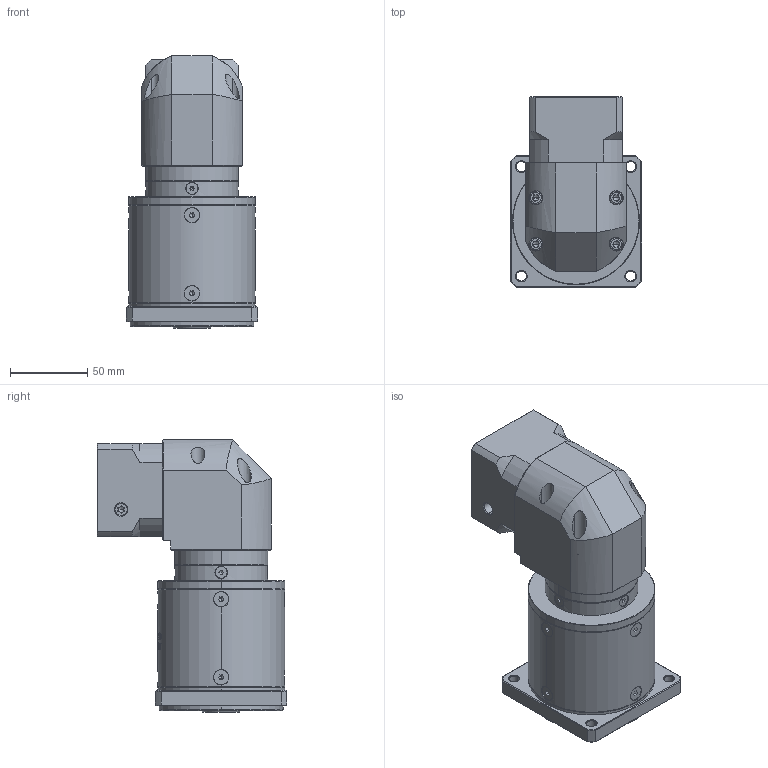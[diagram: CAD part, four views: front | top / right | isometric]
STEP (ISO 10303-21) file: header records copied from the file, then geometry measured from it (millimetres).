
FILE_DESCRIPTION (( 'STEP AP214' ), '1' );
FILE_NAME ('ZFR080-K15-L3-P2-14-50-70-M4.step', '2023-08-25T07:25:13', ( '' ), ( '' ), 'SwSTEP 2.0', 'SolidWorks 2016', '' );
FILE_SCHEMA (( 'AUTOMOTIVE_DESIGN' ));
Length unit declared in the file: millimetre
Products named in the file (1): ZFR080-K15-L3-P2-14-50-70-M4
Bounding box: 85 x 122.7 x 176 mm (x, y, z)
Volume: 870647.7 mm3; surface area: 105790.7 mm2
Topology: 17 solids, 18 shells, 2418 faces, 6314 edges, 4010 vertices
Faces by surface type: plane 1171, cylinder 436, bspline 402, cone 375, torus 34
Entity records: 123088 total; most frequent: CARTESIAN_POINT 41960, ORIENTED_EDGE 12540, DIRECTION 9659, EDGE_CURVE 6270, VERTEX_POINT 4010, LINE 3339, VECTOR 3339, AXIS2_PLACEMENT_3D 3160
